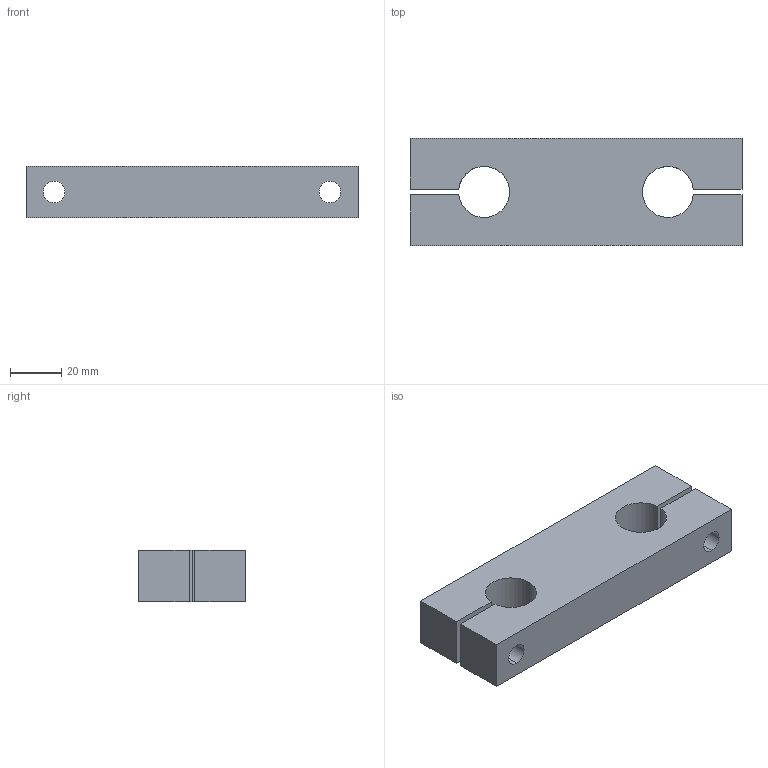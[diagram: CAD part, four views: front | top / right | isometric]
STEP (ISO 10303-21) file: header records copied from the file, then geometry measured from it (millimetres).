
FILE_DESCRIPTION (( 'STEP AP214' ), '1' );
FILE_NAME ('KTB-20.step', '2020-03-04T13:38:34', ( '' ), ( '' ), 'SwSTEP 2.0', 'SolidWorks 2019', '' );
FILE_SCHEMA (( 'AUTOMOTIVE_DESIGN' ));
Length unit declared in the file: millimetre
Products named in the file (1): KTB-20
Bounding box: 130 x 42 x 20 mm (x, y, z)
Volume: 84557 mm3; surface area: 22706.1 mm2
Topology: 1 solids, 1 shells, 41 faces, 101 edges, 65 vertices
Faces by surface type: cylinder 21, plane 16, cone 4
Entity records: 1307 total; most frequent: DIRECTION 227, CARTESIAN_POINT 206, ORIENTED_EDGE 198, EDGE_CURVE 99, AXIS2_PLACEMENT_3D 86, VERTEX_POINT 65, LINE 55, VECTOR 55
